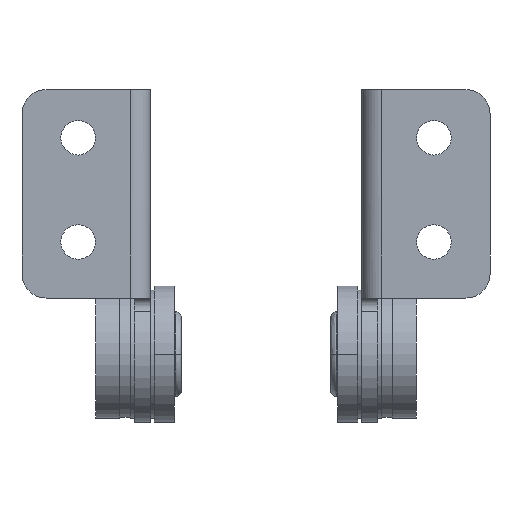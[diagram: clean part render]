
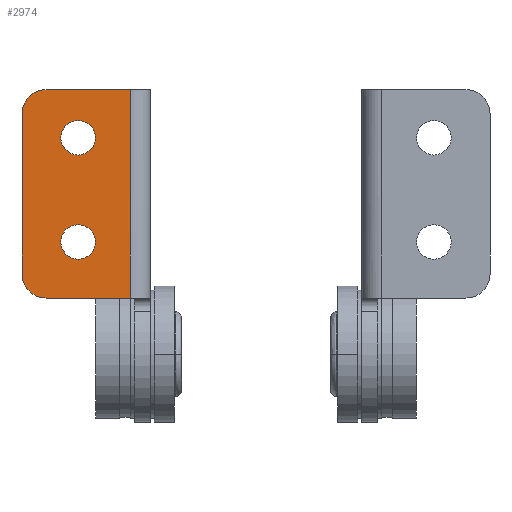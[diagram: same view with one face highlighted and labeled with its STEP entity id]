
A CAD part, front view. The second image highlights one B-rep face of the part: STEP entity #2974.
In plain terms, the highlighted planar face has unit normal (0, -1, 0).
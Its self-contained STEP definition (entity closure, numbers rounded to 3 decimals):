
#104 = EDGE_LOOP ( 'NONE', ( #1697, #2530 ) ) ;
#209 = VERTEX_POINT ( 'NONE', #5519 ) ;
#423 = LINE ( 'NONE', #5423, #3281 ) ;
#502 = ORIENTED_EDGE ( 'NONE', *, *, #5318, .F. ) ;
#507 = DIRECTION ( 'NONE',  ( 1., 0., 0. ) ) ;
#548 = CARTESIAN_POINT ( 'NONE',  ( 11., -9.5, -33. ) ) ;
#603 = DIRECTION ( 'NONE',  ( 0., -1., 0. ) ) ;
#812 = CARTESIAN_POINT ( 'NONE',  ( 7., -9.5, -11.85 ) ) ;
#899 = DIRECTION ( 'NONE',  ( 0., 1., 0. ) ) ;
#908 = ORIENTED_EDGE ( 'NONE', *, *, #3690, .F. ) ;
#911 = FACE_BOUND ( 'NONE', #5430, .T. ) ;
#1069 = VERTEX_POINT ( 'NONE', #1295 ) ;
#1289 = VECTOR ( 'NONE', #6373, 1000. ) ;
#1295 = CARTESIAN_POINT ( 'NONE',  ( 7., -9.5, -29.15 ) ) ;
#1328 = DIRECTION ( 'NONE',  ( 0., 0., 1. ) ) ;
#1394 = VERTEX_POINT ( 'NONE', #5070 ) ;
#1426 = EDGE_CURVE ( 'NONE', #3865, #3121, #3027, .T. ) ;
#1474 = CARTESIAN_POINT ( 'NONE',  ( 7.25, -9.5, -7. ) ) ;
#1587 = VECTOR ( 'NONE', #3996, 1000. ) ;
#1692 = CIRCLE ( 'NONE', #3370, 2.15 ) ;
#1697 = ORIENTED_EDGE ( 'NONE', *, *, #3082, .F. ) ;
#1865 = LINE ( 'NONE', #4869, #1289 ) ;
#2090 = ORIENTED_EDGE ( 'NONE', *, *, #6456, .F. ) ;
#2119 = AXIS2_PLACEMENT_3D ( 'NONE', #3667, #5226, #4153 ) ;
#2130 = CARTESIAN_POINT ( 'NONE',  ( 11., -9.5, -30. ) ) ;
#2158 = ORIENTED_EDGE ( 'NONE', *, *, #6264, .F. ) ;
#2327 = CARTESIAN_POINT ( 'NONE',  ( 11., -9.5, -10. ) ) ;
#2471 = CARTESIAN_POINT ( 'NONE',  ( 14., -9.5, -33. ) ) ;
#2530 = ORIENTED_EDGE ( 'NONE', *, *, #4630, .F. ) ;
#2539 = CARTESIAN_POINT ( 'NONE',  ( 7., -9.5, -14. ) ) ;
#2625 = CIRCLE ( 'NONE', #6267, 2.15 ) ;
#2696 = CARTESIAN_POINT ( 'NONE',  ( 7., -9.5, -16.15 ) ) ;
#2885 = VERTEX_POINT ( 'NONE', #812 ) ;
#2974 = ADVANCED_FACE ( 'NONE', ( #6293, #911, #3814 ), #4910, .F. ) ;
#3017 = DIRECTION ( 'NONE',  ( 0., -1., 0. ) ) ;
#3027 = CIRCLE ( 'NONE', #4703, 3. ) ;
#3073 = CARTESIAN_POINT ( 'NONE',  ( 14., -9.5, -20. ) ) ;
#3082 = EDGE_CURVE ( 'NONE', #2885, #4652, #1692, .T. ) ;
#3091 = CARTESIAN_POINT ( 'NONE',  ( 0.5, -9.5, -7. ) ) ;
#3121 = VERTEX_POINT ( 'NONE', #548 ) ;
#3129 = VERTEX_POINT ( 'NONE', #3091 ) ;
#3209 = DIRECTION ( 'NONE',  ( 0., 0., 1. ) ) ;
#3281 = VECTOR ( 'NONE', #4949, 1000. ) ;
#3287 = EDGE_LOOP ( 'NONE', ( #502, #4860, #3531, #6146, #5861, #2158 ) ) ;
#3290 = CIRCLE ( 'NONE', #4124, 2.15 ) ;
#3370 = AXIS2_PLACEMENT_3D ( 'NONE', #2539, #3017, #3978 ) ;
#3531 = ORIENTED_EDGE ( 'NONE', *, *, #4311, .F. ) ;
#3536 = EDGE_CURVE ( 'NONE', #3129, #1394, #6450, .T. ) ;
#3619 = AXIS2_PLACEMENT_3D ( 'NONE', #2327, #899, #1328 ) ;
#3667 = CARTESIAN_POINT ( 'NONE',  ( 7., -9.5, -27. ) ) ;
#3690 = EDGE_CURVE ( 'NONE', #1069, #4078, #2625, .T. ) ;
#3720 = CARTESIAN_POINT ( 'NONE',  ( 7., -9.5, -14. ) ) ;
#3814 = FACE_BOUND ( 'NONE', #104, .T. ) ;
#3865 = VERTEX_POINT ( 'NONE', #5276 ) ;
#3964 = CARTESIAN_POINT ( 'NONE',  ( 7., -9.5, -24.85 ) ) ;
#3978 = DIRECTION ( 'NONE',  ( 0., 0., 1. ) ) ;
#3996 = DIRECTION ( 'NONE',  ( 0., 0., -1. ) ) ;
#4078 = VERTEX_POINT ( 'NONE', #3964 ) ;
#4120 = VERTEX_POINT ( 'NONE', #5098 ) ;
#4124 = AXIS2_PLACEMENT_3D ( 'NONE', #3720, #4206, #4785 ) ;
#4153 = DIRECTION ( 'NONE',  ( 0., 0., 1. ) ) ;
#4163 = CARTESIAN_POINT ( 'NONE',  ( 7., -9.5, -27. ) ) ;
#4206 = DIRECTION ( 'NONE',  ( 0., -1., 0. ) ) ;
#4311 = EDGE_CURVE ( 'NONE', #4120, #3129, #423, .T. ) ;
#4398 = VECTOR ( 'NONE', #507, 1000. ) ;
#4579 = LINE ( 'NONE', #3073, #1587 ) ;
#4630 = EDGE_CURVE ( 'NONE', #4652, #2885, #3290, .T. ) ;
#4652 = VERTEX_POINT ( 'NONE', #2696 ) ;
#4703 = AXIS2_PLACEMENT_3D ( 'NONE', #2130, #6171, #3209 ) ;
#4785 = DIRECTION ( 'NONE',  ( 0., 0., 1. ) ) ;
#4860 = ORIENTED_EDGE ( 'NONE', *, *, #3536, .F. ) ;
#4869 = CARTESIAN_POINT ( 'NONE',  ( 7.25, -9.5, -33. ) ) ;
#4910 = PLANE ( 'NONE',  #6282 ) ;
#4949 = DIRECTION ( 'NONE',  ( 0., 0., 1. ) ) ;
#5070 = CARTESIAN_POINT ( 'NONE',  ( 11., -9.5, -7. ) ) ;
#5098 = CARTESIAN_POINT ( 'NONE',  ( 0.5, -9.5, -33. ) ) ;
#5226 = DIRECTION ( 'NONE',  ( 0., -1., 0. ) ) ;
#5276 = CARTESIAN_POINT ( 'NONE',  ( 14., -9.5, -30. ) ) ;
#5318 = EDGE_CURVE ( 'NONE', #1394, #209, #6107, .T. ) ;
#5423 = CARTESIAN_POINT ( 'NONE',  ( 0.5, -9.5, -20. ) ) ;
#5430 = EDGE_LOOP ( 'NONE', ( #2090, #908 ) ) ;
#5434 = EDGE_CURVE ( 'NONE', #3121, #4120, #1865, .T. ) ;
#5519 = CARTESIAN_POINT ( 'NONE',  ( 14., -9.5, -10. ) ) ;
#5669 = DIRECTION ( 'NONE',  ( 0., 0., 1. ) ) ;
#5806 = DIRECTION ( 'NONE',  ( 0., 1., 0. ) ) ;
#5836 = DIRECTION ( 'NONE',  ( 1., 0., 0. ) ) ;
#5861 = ORIENTED_EDGE ( 'NONE', *, *, #1426, .F. ) ;
#6107 = CIRCLE ( 'NONE', #3619, 3. ) ;
#6146 = ORIENTED_EDGE ( 'NONE', *, *, #5434, .F. ) ;
#6171 = DIRECTION ( 'NONE',  ( 0., 1., 0. ) ) ;
#6179 = CIRCLE ( 'NONE', #2119, 2.15 ) ;
#6264 = EDGE_CURVE ( 'NONE', #209, #3865, #4579, .T. ) ;
#6267 = AXIS2_PLACEMENT_3D ( 'NONE', #4163, #603, #5669 ) ;
#6282 = AXIS2_PLACEMENT_3D ( 'NONE', #2471, #5806, #5836 ) ;
#6293 = FACE_OUTER_BOUND ( 'NONE', #3287, .T. ) ;
#6373 = DIRECTION ( 'NONE',  ( -1., 0., 0. ) ) ;
#6450 = LINE ( 'NONE', #1474, #4398 ) ;
#6456 = EDGE_CURVE ( 'NONE', #4078, #1069, #6179, .T. ) ;
